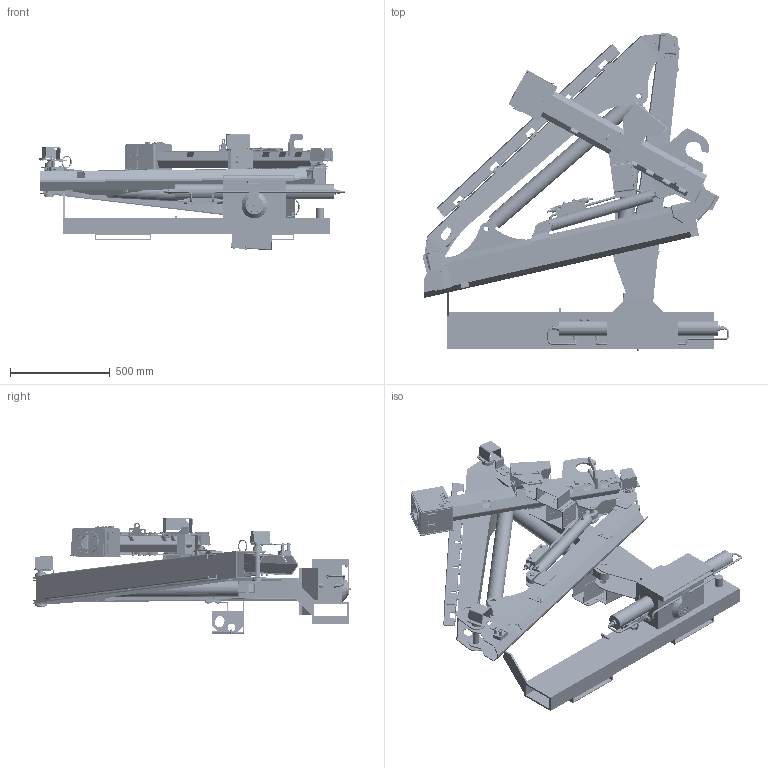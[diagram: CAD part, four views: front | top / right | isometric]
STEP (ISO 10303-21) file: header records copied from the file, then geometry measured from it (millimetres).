
FILE_DESCRIPTION (( 'STEP AP214' ), '1' );
FILE_NAME ('304-83-02-00-00-00.STEP', '2020-12-11T14:32:05', ( '' ), ( '' ), 'SwSTEP 2.0', 'SolidWorks 2016', '' );
FILE_SCHEMA (( 'AUTOMOTIVE_DESIGN' ));
Length unit declared in the file: millimetre
Products named in the file (133): Vijak DIN 933_ISO 4017 - M6 x 20-C10.9 Zn; 304-83-02-22-00-00; 304-83-02-07-02-00; 304-83-02-06-00-00; 304-83-02-19-03-00; Uvrtni imbus vijak s ravnim završetkom DIN 913_DIN 913 - M3 x 6-C10.9 Zn; hyd cilindar 1; SRS_SP_1_D; 304-83-02-16-00-00; Elasticna podloška DIN 127_Spring washer DIN 128 - A3; 304-83-02-05-06-00; Nord-Lock_NL4-Nord-Lock; 304-83-02-05-03-00; 304-83-02-03-03-00; 304-83-02-05-03-02; Vijak DIN 933_ISO 4017 - M6 x 16-C10.9 Zn; 304-83-02-18-00-00; MV10-10-01-00-23; 304-83-02-04-00-00; 304-83-02-16-01-00; 304-83-02-02-00-00; 304-83-02-05-02-03; 304-83-02-18-02-00; 304-83-02-00-00-00; 304-83-02-09-00-00; Matica KM_KM 5 (M25x1.5); 304-83-02-05-07-00; Matica DIN 934_Hexagon Nut ISO 4032 - M4 - D - C; 304-83-02-02-01-00; 304-83-02-05-02-02; 304-83-02-16-02-00; 304-83-02-02-02-00; 304-83-02-12-00-00; 304-83-02-26-02-00; 304-83-02-05-02-05; PCMW 325401.5 E; 304-83-02-05-01-00_novo; 13-1811-DO(hod 400 k)_transportni; 304-83-02-05-02-00; 304-83-02-24-00-00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
Assembly tree (342 placements, depth 4):
  304-83-02-00-00-00
    304-83-02-01-00-00
      304-83-02-01-01-00
      304-83-02-01-02-00
      304-83-02-01-04-00
        304-83-02-01-04-01
        304-83-02-01-04-02
      PK2900_Slew_drive-Main_Boom_part
      Uskocnik vanjski DIN 471_Circlip DIN 471 - 70 x 2.5
    304-83-02-02-00-00
      304-83-02-02-01-00
      304-83-02-02-02-00
      MV10-10-01-00-23  x3
    304-83-02-03-00-00
      304-83-02-03-01-00
      304-83-02-03-02-00  x10
      304-83-02-03-03-00
      MV10-10-01-00-23
      SRS_SP_1_D  x2
    304-83-02-04-00-00
      304-83-02-04-01-00
      304-83-02-04-02-00
      304-83-02-04-03-00
        304-83-02-04-03-01
        304-83-02-04-03-02
      304-83-02-04-04-00
        304-83-02-04-04-01
        304-83-02-04-03-02
      304-83-02-04-05-00
      304-83-02-04-05-00
      304-83-02-04-06-00
      304-83-02-04-07-00
      SRS_SP_1_D  x2
      SRS_SP_1  x2
      SRS_SP_2_H  x2
    304-83-02-05-00-00
      304-83-02-05-01-00_novo
      304-83-02-05-02-00
        304-83-02-05-02-01
        304-83-02-05-02-02
        304-83-02-05-02-03
        304-83-02-05-02-04  x2
        304-83-02-05-02-05
        304-83-02-05-02-05
        DIN 71412A M8x1
      304-83-02-05-03-00
        304-83-02-05-03-01
        304-83-02-05-03-02
        304-83-02-05-03-03
        304-83-02-05-03-04
        304-83-02-05-03-05  x2
        MV10-10-01-00-23
        SRS_SP_2_H  x3
      304-83-02-05-04-00
      304-83-02-05-05-00  x4
      304-83-02-05-06-00
      304-83-02-05-07-00
      304-83-02-05-08-00
      MV10-10-01-00-23  x2
      Elasticna podloška DIN 127_Spring washer DIN 128 - A3  x16
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Bounding box: 1535.78 x 1594.16 x 583.36 mm (x, y, z)
Volume: 53691429.8 mm3; surface area: 10950446.1 mm2
Topology: 372 solids, 372 shells, 14109 faces, 35651 edges, 22427 vertices
Faces by surface type: plane 9321, cylinder 2865, cone 1513, torus 336, bspline 70, sphere 4
Entity records: 200076 total; most frequent: CARTESIAN_POINT 35880, DIRECTION 28783, ORIENTED_EDGE 27062, EDGE_CURVE 13531, AXIS2_PLACEMENT_3D 10639, VERTEX_POINT 8480, LINE 7505, VECTOR 7505
